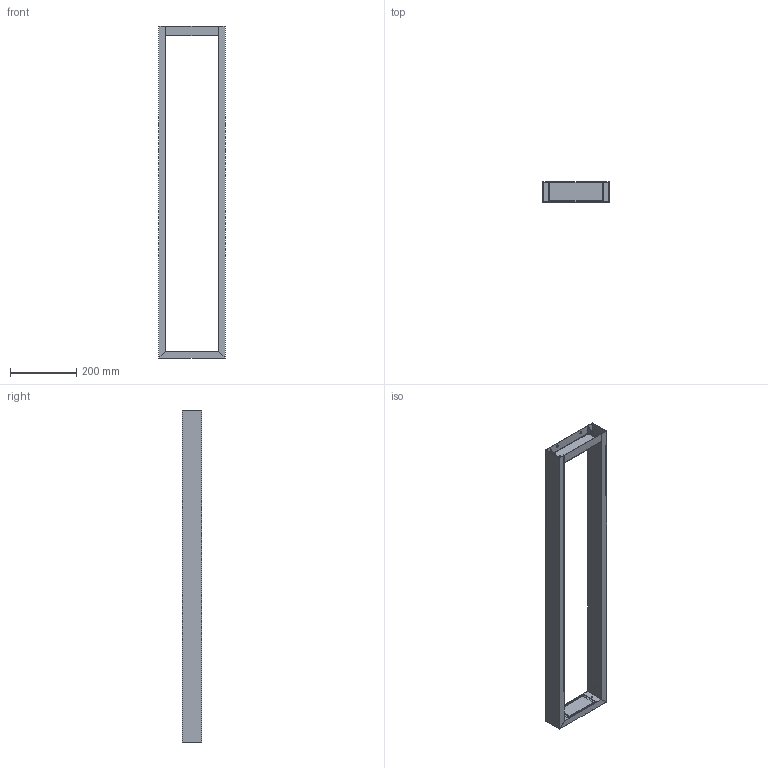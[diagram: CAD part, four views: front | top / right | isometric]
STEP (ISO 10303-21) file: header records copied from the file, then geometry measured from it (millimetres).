
FILE_DESCRIPTION((''),'2;1');
FILE_NAME('PRT0023','2025-05-23T14:24:44',('elena.baldelli'),(''),'CREO PARAMETRIC BY PTC INC, 2020354','CREO PARAMETRIC BY PTC INC, 2020354','');
FILE_SCHEMA(('CONFIG_CONTROL_DESIGN'));
Length unit declared in the file: millimetre
Products named in the file (1): PRT0023
Bounding box: 200 x 60 x 1000 mm (x, y, z)
Surface area: 691345.5 mm2 (no closed solid volume)
Topology: 0 solids, 12 shells, 76 faces, 363 edges, 284 vertices
Faces by surface type: plane 62, cone 6, cylinder 6, bspline 2
Entity records: 4043 total; most frequent: CARTESIAN_POINT 1132, DIRECTION 594, ORIENTED_EDGE 482, EDGE_CURVE 363, VERTEX_POINT 284, VECTOR 244, LINE 244, AXIS2_PLACEMENT_3D 175
